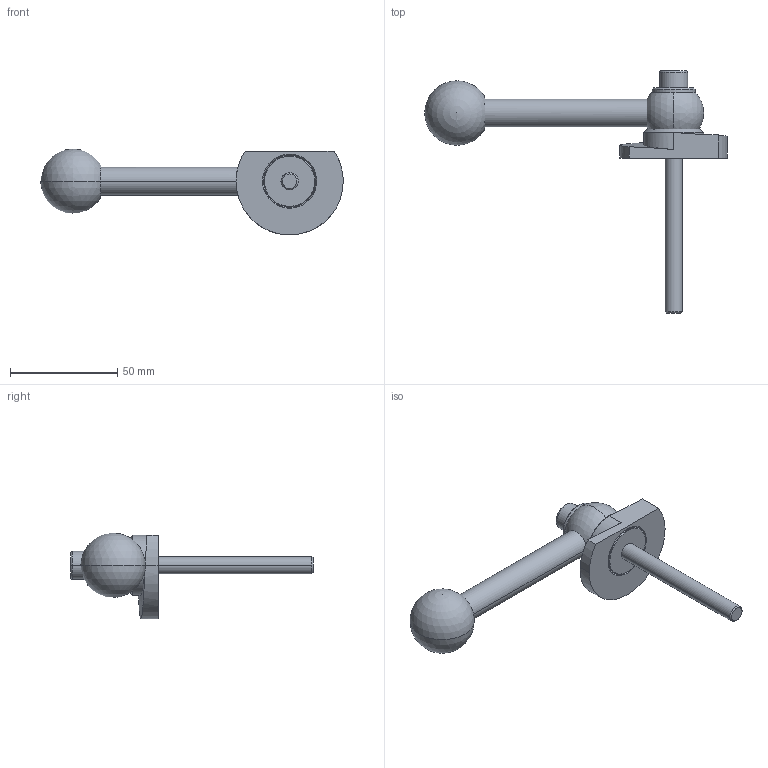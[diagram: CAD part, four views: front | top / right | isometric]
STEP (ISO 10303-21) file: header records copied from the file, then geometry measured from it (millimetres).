
FILE_DESCRIPTION (( 'STEP AP214' ), '1' );
FILE_NAME ('918.1-50-GVS-L-72.step', '2024-05-15T13:01:40', ( '' ), ( '' ), 'SwSTEP 2.0', 'SolidWorks 2022', '' );
FILE_SCHEMA (( 'AUTOMOTIVE_DESIGN' ));
Length unit declared in the file: millimetre
Products named in the file (1): 918.1-50-GVS-L-72
Bounding box: 141 x 113 x 40 mm (x, y, z)
Volume: 54603.9 mm3; surface area: 17153.8 mm2
Topology: 1 solids, 1 shells, 62 faces, 140 edges, 88 vertices
Faces by surface type: plane 20, cylinder 19, cone 14, sphere 4, bspline 3, torus 2
Entity records: 2001 total; most frequent: CARTESIAN_POINT 613, DIRECTION 305, ORIENTED_EDGE 260, EDGE_CURVE 130, AXIS2_PLACEMENT_3D 125, VERTEX_POINT 82, EDGE_LOOP 74, CIRCLE 65
